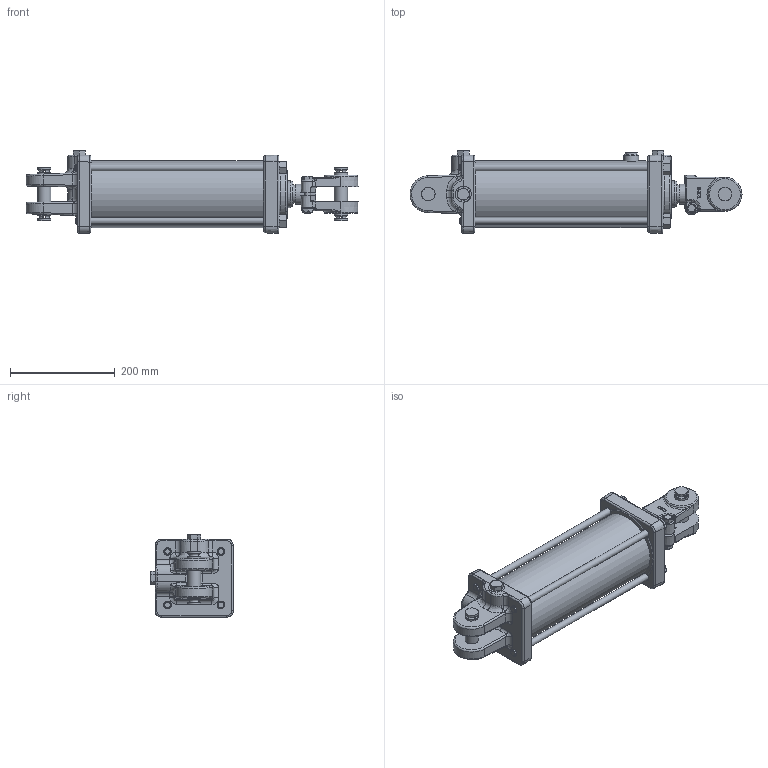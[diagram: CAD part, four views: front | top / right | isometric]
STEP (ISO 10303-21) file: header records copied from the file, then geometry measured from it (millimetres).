
FILE_DESCRIPTION((''),'2;1');
FILE_NAME('\\SRVR-ENG\EngSales\PMS-AM-2615.stp','2012-01-11T13:05:59',('KneiflD'),(''),'Autodesk Inventor 2011','Autodesk Inventor 2011','');
FILE_SCHEMA(('AUTOMOTIVE_DESIGN { 1 0 10303 214 1 1 1 1 }'));
Length unit declared in the file: inch
Products named in the file (28): PMS-AM-2615; 062000137; 052000154; 200300181V; 142000004V; 082000092V; 082000091V; 211100272V; 011100769; 100000326; 100000325; 170002105; 220000223; 072000192V; 220000211V; 240064450V; 240061244V; 240000244V; 240011112V; 240000024V; 250014200V; 240020009V; 170301156; 220000107V; 200300104V; 200300040V; 190400004V
Assembly tree (35 placements, depth 3):
  PMS-AM-2615
    062000137
      052000154
      200300181V
    142000004V
    082000092V
      082000091V
      211100272V
    011100769
    100000326
      100000325
      170002105
      220000223
    072000192V
    220000211V
    240064450V
    240061244V  x2
    240000244V  x2
    240011112V
    240000024V
    250014200V
    240020009V
    170301156  x4
      170301156
      220000107V
    200300104V
    200300040V  x3
    190400004V  x2
Bounding box: 632.6 x 157.66 x 157.66 mm (x, y, z)
Volume: 4122649.4 mm3; surface area: 765632 mm2
Topology: 34 solids, 34 shells, 935 faces, 2128 edges, 1251 vertices
Faces by surface type: plane 273, cylinder 234, cone 180, bspline 172, torus 64, sphere 12
Full cylindrical faces by diameter (mm): 1.575 x1, 2.769 x1, 5.156 x2, 5.159 x2, 7.938 x3, 9.347 x1, 11.113 x1, 11.906 x2, 12.7 x4, 14.351 x4, 14.529 x4, 16.272 x4, 16.764 x3, 17.066 x3, 17.463 x1, 17.501 x4, 19.05 x4, 22.352 x1, 25.4 x6, 25.781 x4, 26.289 x1, 28.524 x1, 28.575 x1, 28.651 x1, 30.429 x3, 31.115 x1, 35.331 x1, 37.897 x1, 50.8 x2, 51.054 x1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
Entity records: 28005 total; most frequent: CARTESIAN_POINT 11005, DIRECTION 3234, ORIENTED_EDGE 3168, EDGE_CURVE 1584, AXIS2_PLACEMENT_3D 1377, VERTEX_POINT 1028, EDGE_LOOP 1022, FACE_OUTER_BOUND 777
